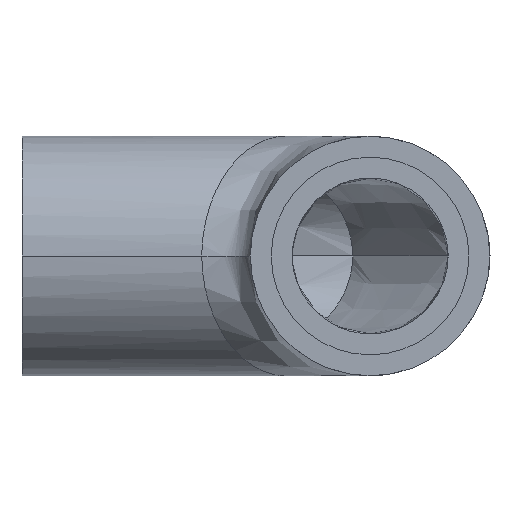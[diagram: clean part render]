
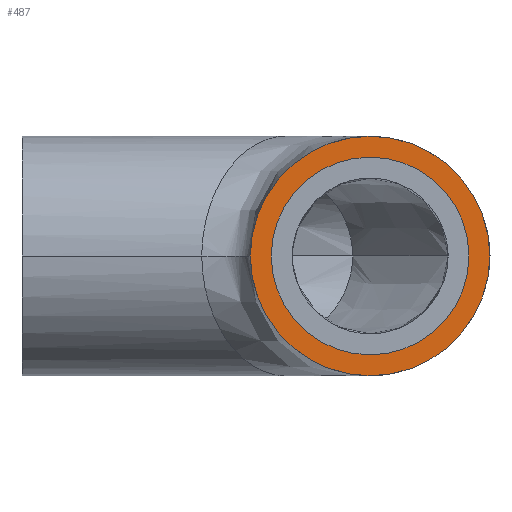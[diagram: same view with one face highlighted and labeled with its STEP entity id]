
A CAD part, left-side view. The second image highlights one B-rep face of the part: STEP entity #487.
In plain terms, the highlighted planar face has unit normal (-1, 0, 0).
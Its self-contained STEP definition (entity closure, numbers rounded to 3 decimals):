
#322 = VERTEX_POINT ( 'NONE', #4414 ) ;
#323 = CARTESIAN_POINT ( 'NONE',  ( -24.385, 0., 0. ) ) ;
#487 = ADVANCED_FACE ( 'NONE', ( #1965, #2631 ), #4493, .F. ) ;
#728 = CARTESIAN_POINT ( 'NONE',  ( -24.385, 0., 0. ) ) ;
#743 = AXIS2_PLACEMENT_3D ( 'NONE', #323, #3323, #5769 ) ;
#833 = ORIENTED_EDGE ( 'NONE', *, *, #6898, .F. ) ;
#918 = EDGE_LOOP ( 'NONE', ( #2693, #4003 ) ) ;
#1202 = EDGE_CURVE ( 'NONE', #1475, #1585, #7551, .T. ) ;
#1284 = CARTESIAN_POINT ( 'NONE',  ( -24.385, 0., 7.1 ) ) ;
#1368 = DIRECTION ( 'NONE',  ( 0., 0., -1. ) ) ;
#1377 = CIRCLE ( 'NONE', #5278, 8.6 ) ;
#1475 = VERTEX_POINT ( 'NONE', #5578 ) ;
#1585 = VERTEX_POINT ( 'NONE', #1284 ) ;
#1674 = DIRECTION ( 'NONE',  ( 0., 0., -1. ) ) ;
#1965 = FACE_BOUND ( 'NONE', #918, .T. ) ;
#2027 = EDGE_CURVE ( 'NONE', #322, #5723, #1377, .T. ) ;
#2044 = CARTESIAN_POINT ( 'NONE',  ( -24.385, 0., 0. ) ) ;
#2266 = DIRECTION ( 'NONE',  ( 1., 0., 0. ) ) ;
#2631 = FACE_OUTER_BOUND ( 'NONE', #4593, .T. ) ;
#2693 = ORIENTED_EDGE ( 'NONE', *, *, #3425, .F. ) ;
#3323 = DIRECTION ( 'NONE',  ( -1., 0., 0. ) ) ;
#3393 = AXIS2_PLACEMENT_3D ( 'NONE', #2044, #6773, #1368 ) ;
#3425 = EDGE_CURVE ( 'NONE', #1585, #1475, #6285, .T. ) ;
#4003 = ORIENTED_EDGE ( 'NONE', *, *, #1202, .F. ) ;
#4414 = CARTESIAN_POINT ( 'NONE',  ( -24.385, -8.6, 0. ) ) ;
#4493 = PLANE ( 'NONE',  #3393 ) ;
#4593 = EDGE_LOOP ( 'NONE', ( #4669, #833 ) ) ;
#4614 = CARTESIAN_POINT ( 'NONE',  ( -24.385, 0., 0. ) ) ;
#4669 = ORIENTED_EDGE ( 'NONE', *, *, #2027, .F. ) ;
#4897 = CARTESIAN_POINT ( 'NONE',  ( -24.385, 8.6, 0. ) ) ;
#4902 = CIRCLE ( 'NONE', #7424, 8.6 ) ;
#5278 = AXIS2_PLACEMENT_3D ( 'NONE', #7083, #2266, #1674 ) ;
#5466 = DIRECTION ( 'NONE',  ( 0., 0., -1. ) ) ;
#5578 = CARTESIAN_POINT ( 'NONE',  ( -24.385, 0., -7.1 ) ) ;
#5723 = VERTEX_POINT ( 'NONE', #4897 ) ;
#5769 = DIRECTION ( 'NONE',  ( 0., 0., 1. ) ) ;
#6285 = CIRCLE ( 'NONE', #743, 7.1 ) ;
#6448 = DIRECTION ( 'NONE',  ( -1., 0., 0. ) ) ;
#6728 = DIRECTION ( 'NONE',  ( 1., 0., 0. ) ) ;
#6773 = DIRECTION ( 'NONE',  ( 1., 0., 0. ) ) ;
#6898 = EDGE_CURVE ( 'NONE', #5723, #322, #4902, .T. ) ;
#7011 = DIRECTION ( 'NONE',  ( 0., 0., 1. ) ) ;
#7083 = CARTESIAN_POINT ( 'NONE',  ( -24.385, 0., 0. ) ) ;
#7172 = AXIS2_PLACEMENT_3D ( 'NONE', #4614, #6448, #7011 ) ;
#7424 = AXIS2_PLACEMENT_3D ( 'NONE', #728, #6728, #5466 ) ;
#7551 = CIRCLE ( 'NONE', #7172, 7.1 ) ;
